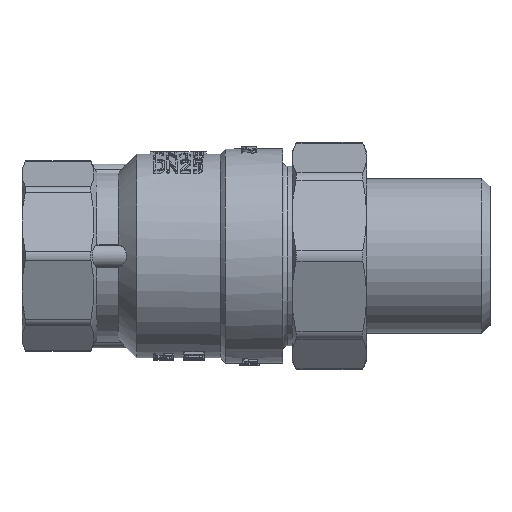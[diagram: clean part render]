
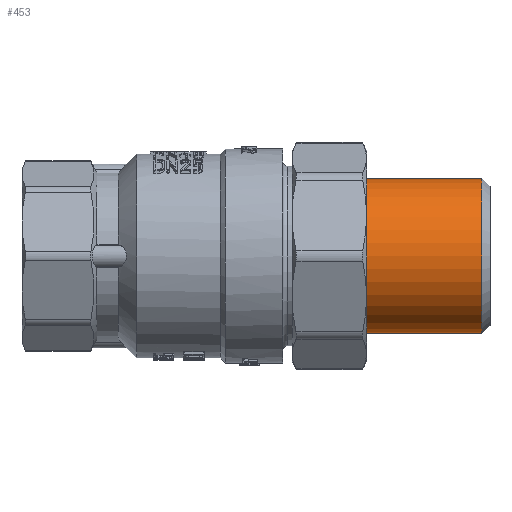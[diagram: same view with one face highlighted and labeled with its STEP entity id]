
A CAD part, front view. The second image highlights one B-rep face of the part: STEP entity #453.
In plain terms, the highlighted cylindrical face has radius 16.625 mm (diameter 33.249 mm), a full revolution.
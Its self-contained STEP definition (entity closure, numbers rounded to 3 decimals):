
#453=ADVANCED_FACE('',(#3792,#3794),#3796,.T.);
#3792=FACE_OUTER_BOUND('',#3793,.T.);
#3793=EDGE_LOOP('',(#10827));
#3794=FACE_OUTER_BOUND('',#3795,.T.);
#3795=EDGE_LOOP('',(#10828));
#3796=CYLINDRICAL_SURFACE('',#3797,16.625);
#3797=AXIS2_PLACEMENT_3D('',#3798,#3799,#3800);
#3798=CARTESIAN_POINT('',(27.755,0.,0.));
#3799=DIRECTION('',(1.,0.,0.));
#3800=DIRECTION('',(0.,1.,0.));
#10827=ORIENTED_EDGE('',*,*,#15452,.T.);
#10828=ORIENTED_EDGE('',*,*,#15920,.F.);
#15452=EDGE_CURVE('',#18846,#18846,#18847,.T.);
#15920=EDGE_CURVE('',#19653,#19653,#19654,.F.);
#18846=VERTEX_POINT('',#32547);
#18847=CIRCLE('',#32548,16.625);
#19653=VERTEX_POINT('',#39418);
#19654=CIRCLE('',#39419,16.625);
#32547=CARTESIAN_POINT('',(64.03,16.625,0.));
#32548=AXIS2_PLACEMENT_3D('',#32549,#32550,#32551);
#32549=CARTESIAN_POINT('',(64.03,0.,0.));
#32550=DIRECTION('',(-1.,0.,0.));
#32551=DIRECTION('',(0.,1.,0.));
#39418=CARTESIAN_POINT('',(35.755,16.625,0.));
#39419=AXIS2_PLACEMENT_3D('',#39420,#39421,#39422);
#39420=CARTESIAN_POINT('',(35.755,0.,0.));
#39421=DIRECTION('',(1.,0.,0.));
#39422=DIRECTION('',(0.,1.,0.));
